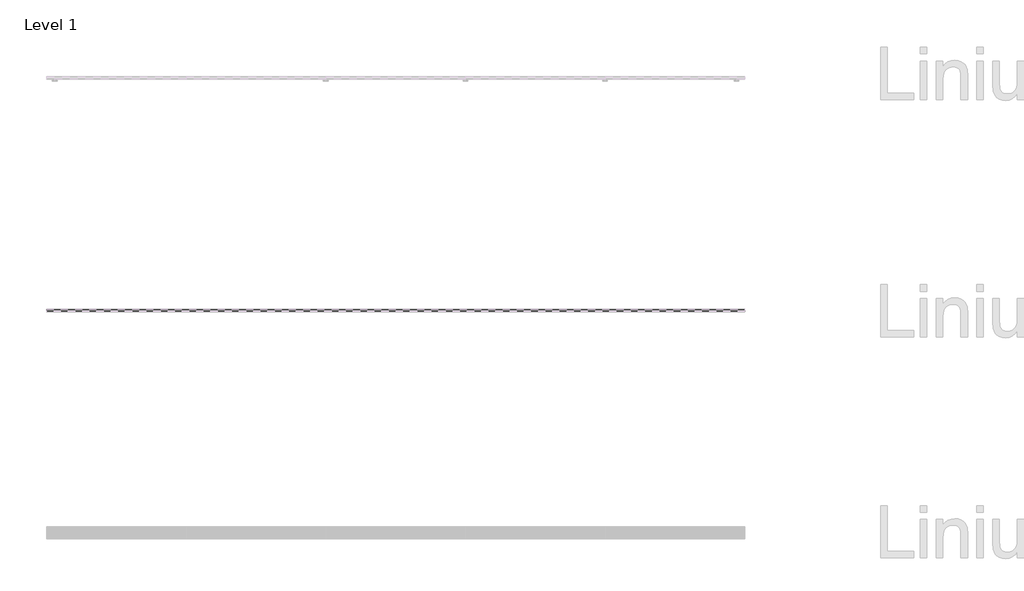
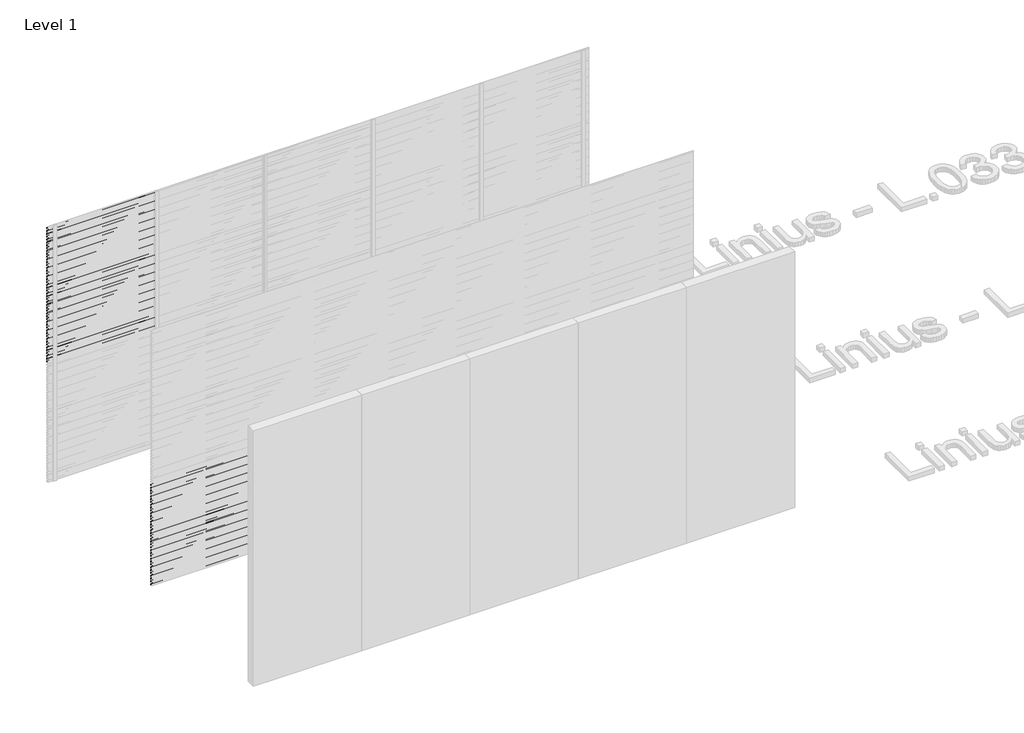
# One storey, part 54 of 507: 84 proxies.
"""IFC4 building model written with IfcOpenShell, lengths in millimetres."""

from ifc_helpers import new_model, si_unit, frame, origin, place, context, project, spatial, polyline, outline, extrude, element, save

model = new_model("IFC4")

# Units and contexts
model_context = context("Model", 3, world=origin())
ifc_project = project(units=[si_unit("LENGTHUNIT", "METRE", prefix="MILLI")], contexts=[model_context])

# Site, building, storey
site = spatial("IfcSite", under=ifc_project)
building = spatial("IfcBuilding", under=site)
storey = spatial("IfcBuildingStorey", under=building, Name="Level 1", Elevation=0.0)

# Proxies
placement = place(None, origin())
element("IfcBuildingElementProxy", 1, Name="Wall Sweeps", at=placement, inside=storey, context=model_context, shape_type="SweptSolid", body=[
    extrude(outline(polyline([(44003.4540136, 2973.0), (44003.4540136, 2959.5), (44002.2040136, 2960.2216933), (44002.2040136, 2972.2782281), (43983.0540136, 2983.3345698), (43983.0540136, 2997.0), (43984.3040136, 2997.0), (43984.3040136, 2984.0562577), (44003.4540136, 2973.0)])), frame((44966.6208097, 0.0, 0.0), z_axis=(1.0, 0.0, 0.0), x_axis=(0.0, 1.0, 0.0)), (0.0, 0.0, 1.0), 1200.0000002),
])
element("IfcBuildingElementProxy", 2, Name="Wall Sweeps", at=placement, inside=storey, context=model_context, shape_type="SweptSolid", body=[
    extrude(outline(polyline([(44003.4540136, 2939.7), (44003.4540136, 2926.2), (44002.2040136, 2926.9216933), (44002.2040136, 2938.9782281), (43983.0540136, 2950.0345698), (43983.0540136, 2963.7), (43984.3040136, 2963.7), (43984.3040136, 2950.7562577), (44003.4540136, 2939.7)])), frame((44966.6208097, 0.0, 0.0), z_axis=(1.0, 0.0, 0.0), x_axis=(0.0, 1.0, 0.0)), (0.0, 0.0, 1.0), 1200.0000002),
])
element("IfcBuildingElementProxy", 3, Name="Wall Sweeps", at=placement, inside=storey, context=model_context, shape_type="SweptSolid", body=[
    extrude(outline(polyline([(44003.4540136, 2906.4), (44003.4540136, 2892.9), (44002.2040136, 2893.6216933), (44002.2040136, 2905.6782281), (43983.0540136, 2916.7345698), (43983.0540136, 2930.4), (43984.3040136, 2930.4), (43984.3040136, 2917.4562577), (44003.4540136, 2906.4)])), frame((44966.6208097, 0.0, 0.0), z_axis=(1.0, 0.0, 0.0), x_axis=(0.0, 1.0, 0.0)), (0.0, 0.0, 1.0), 1200.0000002),
])
element("IfcBuildingElementProxy", 4, Name="Wall Sweeps", at=placement, inside=storey, context=model_context, shape_type="SweptSolid", body=[
    extrude(outline(polyline([(44003.4540136, 2873.1), (44003.4540136, 2859.6), (44002.2040136, 2860.3216933), (44002.2040136, 2872.3782281), (43983.0540136, 2883.4345698), (43983.0540136, 2897.1), (43984.3040136, 2897.1), (43984.3040136, 2884.1562577), (44003.4540136, 2873.1)])), frame((44966.6208097, 0.0, 0.0), z_axis=(1.0, 0.0, 0.0), x_axis=(0.0, 1.0, 0.0)), (0.0, 0.0, 1.0), 1200.0000002),
])
element("IfcBuildingElementProxy", 5, Name="Wall Sweeps", at=placement, inside=storey, context=model_context, shape_type="SweptSolid", body=[
    extrude(outline(polyline([(44003.4540136, 2839.8), (44003.4540136, 2826.3), (44002.2040136, 2827.0216933), (44002.2040136, 2839.0782281), (43983.0540136, 2850.1345698), (43983.0540136, 2863.8), (43984.3040136, 2863.8), (43984.3040136, 2850.8562577), (44003.4540136, 2839.8)])), frame((44966.6208097, 0.0, 0.0), z_axis=(1.0, 0.0, 0.0), x_axis=(0.0, 1.0, 0.0)), (0.0, 0.0, 1.0), 1200.0000002),
])
element("IfcBuildingElementProxy", 6, Name="Wall Sweeps", at=placement, inside=storey, context=model_context, shape_type="SweptSolid", body=[
    extrude(outline(polyline([(44003.4540136, 2806.5), (44003.4540136, 2793.0), (44002.2040136, 2793.7216933), (44002.2040136, 2805.7782281), (43983.0540136, 2816.8345698), (43983.0540136, 2830.5), (43984.3040136, 2830.5), (43984.3040136, 2817.5562577), (44003.4540136, 2806.5)])), frame((44966.6208097, 0.0, 0.0), z_axis=(1.0, 0.0, 0.0), x_axis=(0.0, 1.0, 0.0)), (0.0, 0.0, 1.0), 1200.0000002),
])
element("IfcBuildingElementProxy", 7, Name="Wall Sweeps", at=placement, inside=storey, context=model_context, shape_type="SweptSolid", body=[
    extrude(outline(polyline([(44003.4540136, 2773.2), (44003.4540136, 2759.7), (44002.2040136, 2760.4216933), (44002.2040136, 2772.4782281), (43983.0540136, 2783.5345698), (43983.0540136, 2797.2), (43984.3040136, 2797.2), (43984.3040136, 2784.2562577), (44003.4540136, 2773.2)])), frame((44966.6208097, 0.0, 0.0), z_axis=(1.0, 0.0, 0.0), x_axis=(0.0, 1.0, 0.0)), (0.0, 0.0, 1.0), 1200.0000002),
])
element("IfcBuildingElementProxy", 8, Name="Wall Sweeps", at=placement, inside=storey, context=model_context, shape_type="SweptSolid", body=[
    extrude(outline(polyline([(44003.4540136, 2739.9), (44003.4540136, 2726.4), (44002.2040136, 2727.1216933), (44002.2040136, 2739.1782281), (43983.0540136, 2750.2345698), (43983.0540136, 2763.9), (43984.3040136, 2763.9), (43984.3040136, 2750.9562577), (44003.4540136, 2739.9)])), frame((44966.6208097, 0.0, 0.0), z_axis=(1.0, 0.0, 0.0), x_axis=(0.0, 1.0, 0.0)), (0.0, 0.0, 1.0), 1200.0000002),
])
element("IfcBuildingElementProxy", 9, Name="Wall Sweeps", at=placement, inside=storey, context=model_context, shape_type="SweptSolid", body=[
    extrude(outline(polyline([(44003.4540136, 2706.6), (44003.4540136, 2693.1), (44002.2040136, 2693.8216933), (44002.2040136, 2705.8782281), (43983.0540136, 2716.9345698), (43983.0540136, 2730.6), (43984.3040136, 2730.6), (43984.3040136, 2717.6562577), (44003.4540136, 2706.6)])), frame((44966.6208097, 0.0, 0.0), z_axis=(1.0, 0.0, 0.0), x_axis=(0.0, 1.0, 0.0)), (0.0, 0.0, 1.0), 1200.0000002),
])
element("IfcBuildingElementProxy", 10, Name="Wall Sweeps", at=placement, inside=storey, context=model_context, shape_type="SweptSolid", body=[
    extrude(outline(polyline([(44003.4540136, 2673.3), (44003.4540136, 2659.8), (44002.2040136, 2660.5216933), (44002.2040136, 2672.5782281), (43983.0540136, 2683.6345698), (43983.0540136, 2697.3), (43984.3040136, 2697.3), (43984.3040136, 2684.3562577), (44003.4540136, 2673.3)])), frame((44966.6208097, 0.0, 0.0), z_axis=(1.0, 0.0, 0.0), x_axis=(0.0, 1.0, 0.0)), (0.0, 0.0, 1.0), 1200.0000002),
])
element("IfcBuildingElementProxy", 11, Name="Wall Sweeps", at=placement, inside=storey, context=model_context, shape_type="SweptSolid", body=[
    extrude(outline(polyline([(44003.4540136, 2640.0), (44003.4540136, 2626.5), (44002.2040136, 2627.2216933), (44002.2040136, 2639.2782281), (43983.0540136, 2650.3345698), (43983.0540136, 2664.0), (43984.3040136, 2664.0), (43984.3040136, 2651.0562577), (44003.4540136, 2640.0)])), frame((44966.6208097, 0.0, 0.0), z_axis=(1.0, 0.0, 0.0), x_axis=(0.0, 1.0, 0.0)), (0.0, 0.0, 1.0), 1200.0000002),
])
element("IfcBuildingElementProxy", 12, Name="Wall Sweeps", at=placement, inside=storey, context=model_context, shape_type="SweptSolid", body=[
    extrude(outline(polyline([(44003.4540136, 2606.7), (44003.4540136, 2593.2), (44002.2040136, 2593.9216933), (44002.2040136, 2605.9782281), (43983.0540136, 2617.0345698), (43983.0540136, 2630.7), (43984.3040136, 2630.7), (43984.3040136, 2617.7562577), (44003.4540136, 2606.7)])), frame((44966.6208097, 0.0, 0.0), z_axis=(1.0, 0.0, 0.0), x_axis=(0.0, 1.0, 0.0)), (0.0, 0.0, 1.0), 1200.0000002),
])
element("IfcBuildingElementProxy", 13, Name="Wall Sweeps", at=placement, inside=storey, context=model_context, shape_type="SweptSolid", body=[
    extrude(outline(polyline([(44003.4540136, 2573.4), (44003.4540136, 2559.9), (44002.2040136, 2560.6216933), (44002.2040136, 2572.6782281), (43983.0540136, 2583.7345698), (43983.0540136, 2597.4), (43984.3040136, 2597.4), (43984.3040136, 2584.4562577), (44003.4540136, 2573.4)])), frame((44966.6208097, 0.0, 0.0), z_axis=(1.0, 0.0, 0.0), x_axis=(0.0, 1.0, 0.0)), (0.0, 0.0, 1.0), 1200.0000002),
])
element("IfcBuildingElementProxy", 14, Name="Wall Sweeps", at=placement, inside=storey, context=model_context, shape_type="SweptSolid", body=[
    extrude(outline(polyline([(44003.4540136, 2540.1), (44003.4540136, 2526.6), (44002.2040136, 2527.3216933), (44002.2040136, 2539.3782281), (43983.0540136, 2550.4345698), (43983.0540136, 2564.1), (43984.3040136, 2564.1), (43984.3040136, 2551.1562577), (44003.4540136, 2540.1)])), frame((44966.6208097, 0.0, 0.0), z_axis=(1.0, 0.0, 0.0), x_axis=(0.0, 1.0, 0.0)), (0.0, 0.0, 1.0), 1200.0000002),
])
element("IfcBuildingElementProxy", 15, Name="Wall Sweeps", at=placement, inside=storey, context=model_context, shape_type="SweptSolid", body=[
    extrude(outline(polyline([(44003.4540136, 2506.8), (44003.4540136, 2493.3), (44002.2040136, 2494.0216933), (44002.2040136, 2506.0782281), (43983.0540136, 2517.1345698), (43983.0540136, 2530.8), (43984.3040136, 2530.8), (43984.3040136, 2517.8562577), (44003.4540136, 2506.8)])), frame((44966.6208097, 0.0, 0.0), z_axis=(1.0, 0.0, 0.0), x_axis=(0.0, 1.0, 0.0)), (0.0, 0.0, 1.0), 1200.0000002),
])
element("IfcBuildingElementProxy", 16, Name="Wall Sweeps", at=placement, inside=storey, context=model_context, shape_type="SweptSolid", body=[
    extrude(outline(polyline([(44003.4540136, 2473.5), (44003.4540136, 2460.0), (44002.2040136, 2460.7216933), (44002.2040136, 2472.7782281), (43983.0540136, 2483.8345698), (43983.0540136, 2497.5), (43984.3040136, 2497.5), (43984.3040136, 2484.5562577), (44003.4540136, 2473.5)])), frame((44966.6208097, 0.0, 0.0), z_axis=(1.0, 0.0, 0.0), x_axis=(0.0, 1.0, 0.0)), (0.0, 0.0, 1.0), 1200.0000002),
])
element("IfcBuildingElementProxy", 17, Name="Wall Sweeps", at=placement, inside=storey, context=model_context, shape_type="SweptSolid", body=[
    extrude(outline(polyline([(44003.4540136, 2440.2), (44003.4540136, 2426.7), (44002.2040136, 2427.4216933), (44002.2040136, 2439.4782281), (43983.0540136, 2450.5345698), (43983.0540136, 2464.2), (43984.3040136, 2464.2), (43984.3040136, 2451.2562577), (44003.4540136, 2440.2)])), frame((44966.6208097, 0.0, 0.0), z_axis=(1.0, 0.0, 0.0), x_axis=(0.0, 1.0, 0.0)), (0.0, 0.0, 1.0), 1200.0000002),
])
element("IfcBuildingElementProxy", 18, Name="Wall Sweeps", at=placement, inside=storey, context=model_context, shape_type="SweptSolid", body=[
    extrude(outline(polyline([(44003.4540136, 2406.9), (44003.4540136, 2393.4), (44002.2040136, 2394.1216933), (44002.2040136, 2406.1782281), (43983.0540136, 2417.2345698), (43983.0540136, 2430.9), (43984.3040136, 2430.9), (43984.3040136, 2417.9562577), (44003.4540136, 2406.9)])), frame((44966.6208097, 0.0, 0.0), z_axis=(1.0, 0.0, 0.0), x_axis=(0.0, 1.0, 0.0)), (0.0, 0.0, 1.0), 1200.0000002),
])
element("IfcBuildingElementProxy", 19, Name="Wall Sweeps", at=placement, inside=storey, context=model_context, shape_type="SweptSolid", body=[
    extrude(outline(polyline([(44003.4540136, 2373.6), (44003.4540136, 2360.1), (44002.2040136, 2360.8216933), (44002.2040136, 2372.8782281), (43983.0540136, 2383.9345698), (43983.0540136, 2397.6), (43984.3040136, 2397.6), (43984.3040136, 2384.6562577), (44003.4540136, 2373.6)])), frame((44966.6208097, 0.0, 0.0), z_axis=(1.0, 0.0, 0.0), x_axis=(0.0, 1.0, 0.0)), (0.0, 0.0, 1.0), 1200.0000002),
])
element("IfcBuildingElementProxy", 20, Name="Wall Sweeps", at=placement, inside=storey, context=model_context, shape_type="SweptSolid", body=[
    extrude(outline(polyline([(44003.4540136, 2340.3), (44003.4540136, 2326.8), (44002.2040136, 2327.5216933), (44002.2040136, 2339.5782281), (43983.0540136, 2350.6345698), (43983.0540136, 2364.3), (43984.3040136, 2364.3), (43984.3040136, 2351.3562577), (44003.4540136, 2340.3)])), frame((44966.6208097, 0.0, 0.0), z_axis=(1.0, 0.0, 0.0), x_axis=(0.0, 1.0, 0.0)), (0.0, 0.0, 1.0), 1200.0000002),
])
element("IfcBuildingElementProxy", 21, Name="Wall Sweeps", at=placement, inside=storey, context=model_context, shape_type="SweptSolid", body=[
    extrude(outline(polyline([(44003.4540136, 2307.0), (44003.4540136, 2293.5), (44002.2040136, 2294.2216933), (44002.2040136, 2306.2782281), (43983.0540136, 2317.3345698), (43983.0540136, 2331.0), (43984.3040136, 2331.0), (43984.3040136, 2318.0562577), (44003.4540136, 2307.0)])), frame((44966.6208097, 0.0, 0.0), z_axis=(1.0, 0.0, 0.0), x_axis=(0.0, 1.0, 0.0)), (0.0, 0.0, 1.0), 1200.0000002),
])
element("IfcBuildingElementProxy", 22, Name="Wall Sweeps", at=placement, inside=storey, context=model_context, shape_type="SweptSolid", body=[
    extrude(outline(polyline([(44003.4540136, 2273.7), (44003.4540136, 2260.2), (44002.2040136, 2260.9216933), (44002.2040136, 2272.9782281), (43983.0540136, 2284.0345698), (43983.0540136, 2297.7), (43984.3040136, 2297.7), (43984.3040136, 2284.7562577), (44003.4540136, 2273.7)])), frame((44966.6208097, 0.0, 0.0), z_axis=(1.0, 0.0, 0.0), x_axis=(0.0, 1.0, 0.0)), (0.0, 0.0, 1.0), 1200.0000002),
])
element("IfcBuildingElementProxy", 23, Name="Wall Sweeps", at=placement, inside=storey, context=model_context, shape_type="SweptSolid", body=[
    extrude(outline(polyline([(44003.4540136, 2240.4), (44003.4540136, 2226.9), (44002.2040136, 2227.6216933), (44002.2040136, 2239.6782281), (43983.0540136, 2250.7345698), (43983.0540136, 2264.4), (43984.3040136, 2264.4), (43984.3040136, 2251.4562577), (44003.4540136, 2240.4)])), frame((44966.6208097, 0.0, 0.0), z_axis=(1.0, 0.0, 0.0), x_axis=(0.0, 1.0, 0.0)), (0.0, 0.0, 1.0), 1200.0000002),
])
element("IfcBuildingElementProxy", 24, Name="Wall Sweeps", at=placement, inside=storey, context=model_context, shape_type="SweptSolid", body=[
    extrude(outline(polyline([(44003.4540136, 2207.1), (44003.4540136, 2193.6), (44002.2040136, 2194.3216933), (44002.2040136, 2206.3782281), (43983.0540136, 2217.4345698), (43983.0540136, 2231.1), (43984.3040136, 2231.1), (43984.3040136, 2218.1562577), (44003.4540136, 2207.1)])), frame((44966.6208097, 0.0, 0.0), z_axis=(1.0, 0.0, 0.0), x_axis=(0.0, 1.0, 0.0)), (0.0, 0.0, 1.0), 1200.0000002),
])
element("IfcBuildingElementProxy", 25, Name="Wall Sweeps", at=placement, inside=storey, context=model_context, shape_type="SweptSolid", body=[
    extrude(outline(polyline([(44003.4540136, 2173.8), (44003.4540136, 2160.3), (44002.2040136, 2161.0216933), (44002.2040136, 2173.0782281), (43983.0540136, 2184.1345698), (43983.0540136, 2197.8), (43984.3040136, 2197.8), (43984.3040136, 2184.8562577), (44003.4540136, 2173.8)])), frame((44966.6208097, 0.0, 0.0), z_axis=(1.0, 0.0, 0.0), x_axis=(0.0, 1.0, 0.0)), (0.0, 0.0, 1.0), 1200.0000002),
])
element("IfcBuildingElementProxy", 26, Name="Wall Sweeps", at=placement, inside=storey, context=model_context, shape_type="SweptSolid", body=[
    extrude(outline(polyline([(44003.4540136, 2140.5), (44003.4540136, 2127.0), (44002.2040136, 2127.7216933), (44002.2040136, 2139.7782281), (43983.0540136, 2150.8345698), (43983.0540136, 2164.5), (43984.3040136, 2164.5), (43984.3040136, 2151.5562577), (44003.4540136, 2140.5)])), frame((44966.6208097, 0.0, 0.0), z_axis=(1.0, 0.0, 0.0), x_axis=(0.0, 1.0, 0.0)), (0.0, 0.0, 1.0), 1200.0000002),
])
element("IfcBuildingElementProxy", 27, Name="Wall Sweeps", at=placement, inside=storey, context=model_context, shape_type="SweptSolid", body=[
    extrude(outline(polyline([(44003.4540136, 2107.2), (44003.4540136, 2093.7), (44002.2040136, 2094.4216933), (44002.2040136, 2106.4782281), (43983.0540136, 2117.5345698), (43983.0540136, 2131.2), (43984.3040136, 2131.2), (43984.3040136, 2118.2562577), (44003.4540136, 2107.2)])), frame((44966.6208097, 0.0, 0.0), z_axis=(1.0, 0.0, 0.0), x_axis=(0.0, 1.0, 0.0)), (0.0, 0.0, 1.0), 1200.0000002),
])
element("IfcBuildingElementProxy", 28, Name="Wall Sweeps", at=placement, inside=storey, context=model_context, shape_type="SweptSolid", body=[
    extrude(outline(polyline([(44003.4540136, 2073.9), (44003.4540136, 2060.4), (44002.2040136, 2061.1216933), (44002.2040136, 2073.1782281), (43983.0540136, 2084.2345698), (43983.0540136, 2097.9), (43984.3040136, 2097.9), (43984.3040136, 2084.9562577), (44003.4540136, 2073.9)])), frame((44966.6208097, 0.0, 0.0), z_axis=(1.0, 0.0, 0.0), x_axis=(0.0, 1.0, 0.0)), (0.0, 0.0, 1.0), 1200.0000002),
])
element("IfcBuildingElementProxy", 29, Name="Wall Sweeps", at=placement, inside=storey, context=model_context, shape_type="SweptSolid", body=[
    extrude(outline(polyline([(44003.4540136, 2040.6), (44003.4540136, 2027.1), (44002.2040136, 2027.8216933), (44002.2040136, 2039.8782281), (43983.0540136, 2050.9345698), (43983.0540136, 2064.6), (43984.3040136, 2064.6), (43984.3040136, 2051.6562577), (44003.4540136, 2040.6)])), frame((44966.6208097, 0.0, 0.0), z_axis=(1.0, 0.0, 0.0), x_axis=(0.0, 1.0, 0.0)), (0.0, 0.0, 1.0), 1200.0000002),
])
element("IfcBuildingElementProxy", 30, Name="Wall Sweeps", at=placement, inside=storey, context=model_context, shape_type="SweptSolid", body=[
    extrude(outline(polyline([(44003.4540136, 2007.3), (44003.4540136, 1993.8), (44002.2040136, 1994.5216933), (44002.2040136, 2006.5782281), (43983.0540136, 2017.6345698), (43983.0540136, 2031.3), (43984.3040136, 2031.3), (43984.3040136, 2018.3562577), (44003.4540136, 2007.3)])), frame((44966.6208097, 0.0, 0.0), z_axis=(1.0, 0.0, 0.0), x_axis=(0.0, 1.0, 0.0)), (0.0, 0.0, 1.0), 1200.0000002),
])
element("IfcBuildingElementProxy", 31, Name="Wall Sweeps", at=placement, inside=storey, context=model_context, shape_type="SweptSolid", body=[
    extrude(outline(polyline([(44003.4540136, 1974.0), (44003.4540136, 1960.5), (44002.2040136, 1961.2216933), (44002.2040136, 1973.2782281), (43983.0540136, 1984.3345698), (43983.0540136, 1998.0), (43984.3040136, 1998.0), (43984.3040136, 1985.0562577), (44003.4540136, 1974.0)])), frame((44966.6208097, 0.0, 0.0), z_axis=(1.0, 0.0, 0.0), x_axis=(0.0, 1.0, 0.0)), (0.0, 0.0, 1.0), 1200.0000002),
])
element("IfcBuildingElementProxy", 32, Name="Wall Sweeps", at=placement, inside=storey, context=model_context, shape_type="SweptSolid", body=[
    extrude(outline(polyline([(44003.4540136, 1940.7), (44003.4540136, 1927.2), (44002.2040136, 1927.9216933), (44002.2040136, 1939.9782281), (43983.0540136, 1951.0345698), (43983.0540136, 1964.7), (43984.3040136, 1964.7), (43984.3040136, 1951.7562577), (44003.4540136, 1940.7)])), frame((44966.6208097, 0.0, 0.0), z_axis=(1.0, 0.0, 0.0), x_axis=(0.0, 1.0, 0.0)), (0.0, 0.0, 1.0), 1200.0000002),
])
element("IfcBuildingElementProxy", 33, Name="Wall Sweeps", at=placement, inside=storey, context=model_context, shape_type="SweptSolid", body=[
    extrude(outline(polyline([(44003.4540136, 1907.4), (44003.4540136, 1893.9), (44002.2040136, 1894.6216933), (44002.2040136, 1906.6782281), (43983.0540136, 1917.7345698), (43983.0540136, 1931.4), (43984.3040136, 1931.4), (43984.3040136, 1918.4562577), (44003.4540136, 1907.4)])), frame((44966.6208097, 0.0, 0.0), z_axis=(1.0, 0.0, 0.0), x_axis=(0.0, 1.0, 0.0)), (0.0, 0.0, 1.0), 1200.0000002),
])
element("IfcBuildingElementProxy", 34, Name="Wall Sweeps", at=placement, inside=storey, context=model_context, shape_type="SweptSolid", body=[
    extrude(outline(polyline([(44003.4540136, 1874.1), (44003.4540136, 1860.6), (44002.2040136, 1861.3216933), (44002.2040136, 1873.3782281), (43983.0540136, 1884.4345698), (43983.0540136, 1898.1), (43984.3040136, 1898.1), (43984.3040136, 1885.1562577), (44003.4540136, 1874.1)])), frame((44966.6208097, 0.0, 0.0), z_axis=(1.0, 0.0, 0.0), x_axis=(0.0, 1.0, 0.0)), (0.0, 0.0, 1.0), 1200.0000002),
])
element("IfcBuildingElementProxy", 35, Name="Wall Sweeps", at=placement, inside=storey, context=model_context, shape_type="SweptSolid", body=[
    extrude(outline(polyline([(44003.4540136, 1840.8), (44003.4540136, 1827.3), (44002.2040136, 1828.0216933), (44002.2040136, 1840.0782281), (43983.0540136, 1851.1345698), (43983.0540136, 1864.8), (43984.3040136, 1864.8), (43984.3040136, 1851.8562577), (44003.4540136, 1840.8)])), frame((44966.6208097, 0.0, 0.0), z_axis=(1.0, 0.0, 0.0), x_axis=(0.0, 1.0, 0.0)), (0.0, 0.0, 1.0), 1200.0000002),
])
element("IfcBuildingElementProxy", 36, Name="Wall Sweeps", at=placement, inside=storey, context=model_context, shape_type="SweptSolid", body=[
    extrude(outline(polyline([(44003.4540136, 1807.5), (44003.4540136, 1794.0), (44002.2040136, 1794.7216933), (44002.2040136, 1806.7782281), (43983.0540136, 1817.8345698), (43983.0540136, 1831.5), (43984.3040136, 1831.5), (43984.3040136, 1818.5562577), (44003.4540136, 1807.5)])), frame((44966.6208097, 0.0, 0.0), z_axis=(1.0, 0.0, 0.0), x_axis=(0.0, 1.0, 0.0)), (0.0, 0.0, 1.0), 1200.0000002),
])
element("IfcBuildingElementProxy", 37, Name="Wall Sweeps", at=placement, inside=storey, context=model_context, shape_type="SweptSolid", body=[
    extrude(outline(polyline([(44003.4540136, 1774.2), (44003.4540136, 1760.7), (44002.2040136, 1761.4216933), (44002.2040136, 1773.4782281), (43983.0540136, 1784.5345698), (43983.0540136, 1798.2), (43984.3040136, 1798.2), (43984.3040136, 1785.2562577), (44003.4540136, 1774.2)])), frame((44966.6208097, 0.0, 0.0), z_axis=(1.0, 0.0, 0.0), x_axis=(0.0, 1.0, 0.0)), (0.0, 0.0, 1.0), 1200.0000002),
])
element("IfcBuildingElementProxy", 38, Name="Wall Sweeps", at=placement, inside=storey, context=model_context, shape_type="SweptSolid", body=[
    extrude(outline(polyline([(44003.4540136, 1740.9), (44003.4540136, 1727.4), (44002.2040136, 1728.1216933), (44002.2040136, 1740.1782281), (43983.0540136, 1751.2345698), (43983.0540136, 1764.9), (43984.3040136, 1764.9), (43984.3040136, 1751.9562577), (44003.4540136, 1740.9)])), frame((44966.6208097, 0.0, 0.0), z_axis=(1.0, 0.0, 0.0), x_axis=(0.0, 1.0, 0.0)), (0.0, 0.0, 1.0), 1200.0000002),
])
element("IfcBuildingElementProxy", 39, Name="Wall Sweeps", at=placement, inside=storey, context=model_context, shape_type="SweptSolid", body=[
    extrude(outline(polyline([(44003.4540136, 1707.6), (44003.4540136, 1694.1), (44002.2040136, 1694.8216933), (44002.2040136, 1706.8782281), (43983.0540136, 1717.9345698), (43983.0540136, 1731.6), (43984.3040136, 1731.6), (43984.3040136, 1718.6562577), (44003.4540136, 1707.6)])), frame((44966.6208097, 0.0, 0.0), z_axis=(1.0, 0.0, 0.0), x_axis=(0.0, 1.0, 0.0)), (0.0, 0.0, 1.0), 1200.0000002),
])
element("IfcBuildingElementProxy", 40, Name="Wall Sweeps", at=placement, inside=storey, context=model_context, shape_type="SweptSolid", body=[
    extrude(outline(polyline([(44003.4540136, 1674.3), (44003.4540136, 1660.8), (44002.2040136, 1661.5216933), (44002.2040136, 1673.5782281), (43983.0540136, 1684.6345698), (43983.0540136, 1698.3), (43984.3040136, 1698.3), (43984.3040136, 1685.3562577), (44003.4540136, 1674.3)])), frame((44966.6208097, 0.0, 0.0), z_axis=(1.0, 0.0, 0.0), x_axis=(0.0, 1.0, 0.0)), (0.0, 0.0, 1.0), 1200.0000002),
])
element("IfcBuildingElementProxy", 41, Name="Wall Sweeps", at=placement, inside=storey, context=model_context, shape_type="SweptSolid", body=[
    extrude(outline(polyline([(44003.4540136, 1641.0), (44003.4540136, 1627.5), (44002.2040136, 1628.2216933), (44002.2040136, 1640.2782281), (43983.0540136, 1651.3345698), (43983.0540136, 1665.0), (43984.3040136, 1665.0), (43984.3040136, 1652.0562577), (44003.4540136, 1641.0)])), frame((44966.6208097, 0.0, 0.0), z_axis=(1.0, 0.0, 0.0), x_axis=(0.0, 1.0, 0.0)), (0.0, 0.0, 1.0), 1200.0000002),
])
element("IfcBuildingElementProxy", 42, Name="Wall Sweeps", at=placement, inside=storey, context=model_context, shape_type="SweptSolid", body=[
    extrude(outline(polyline([(44003.4540136, 1607.7), (44003.4540136, 1594.2), (44002.2040136, 1594.9216933), (44002.2040136, 1606.9782281), (43983.0540136, 1618.0345698), (43983.0540136, 1631.7), (43984.3040136, 1631.7), (43984.3040136, 1618.7562577), (44003.4540136, 1607.7)])), frame((44966.6208097, 0.0, 0.0), z_axis=(1.0, 0.0, 0.0), x_axis=(0.0, 1.0, 0.0)), (0.0, 0.0, 1.0), 1200.0000002),
])
element("IfcBuildingElementProxy", 43, Name="Wall Sweeps", at=placement, inside=storey, context=model_context, shape_type="SweptSolid", body=[
    extrude(outline(polyline([(44003.4540136, 1574.4), (44003.4540136, 1560.9), (44002.2040136, 1561.6216933), (44002.2040136, 1573.6782281), (43983.0540136, 1584.7345698), (43983.0540136, 1598.4), (43984.3040136, 1598.4), (43984.3040136, 1585.4562577), (44003.4540136, 1574.4)])), frame((44966.6208097, 0.0, 0.0), z_axis=(1.0, 0.0, 0.0), x_axis=(0.0, 1.0, 0.0)), (0.0, 0.0, 1.0), 1200.0000002),
])
element("IfcBuildingElementProxy", 44, Name="Wall Sweeps", at=placement, inside=storey, context=model_context, shape_type="SweptSolid", body=[
    extrude(outline(polyline([(44003.4540136, 1541.1), (44003.4540136, 1527.6), (44002.2040136, 1528.3216933), (44002.2040136, 1540.3782281), (43983.0540136, 1551.4345698), (43983.0540136, 1565.1), (43984.3040136, 1565.1), (43984.3040136, 1552.1562577), (44003.4540136, 1541.1)])), frame((44966.6208097, 0.0, 0.0), z_axis=(1.0, 0.0, 0.0), x_axis=(0.0, 1.0, 0.0)), (0.0, 0.0, 1.0), 1200.0000002),
])
element("IfcBuildingElementProxy", 45, Name="Wall Sweeps", at=placement, inside=storey, context=model_context, shape_type="SweptSolid", body=[
    extrude(outline(polyline([(44003.4540136, 1507.8), (44003.4540136, 1494.3), (44002.2040136, 1495.0216933), (44002.2040136, 1507.0782281), (43983.0540136, 1518.1345698), (43983.0540136, 1531.8), (43984.3040136, 1531.8), (43984.3040136, 1518.8562577), (44003.4540136, 1507.8)])), frame((44966.6208097, 0.0, 0.0), z_axis=(1.0, 0.0, 0.0), x_axis=(0.0, 1.0, 0.0)), (0.0, 0.0, 1.0), 1200.0000002),
])
element("IfcBuildingElementProxy", 46, Name="Wall Sweeps", at=placement, inside=storey, context=model_context, shape_type="SweptSolid", body=[
    extrude(outline(polyline([(44003.4540136, 1474.5), (44003.4540136, 1461.0), (44002.2040136, 1461.7216933), (44002.2040136, 1473.7782281), (43983.0540136, 1484.8345698), (43983.0540136, 1498.5), (43984.3040136, 1498.5), (43984.3040136, 1485.5562577), (44003.4540136, 1474.5)])), frame((44966.6208097, 0.0, 0.0), z_axis=(1.0, 0.0, 0.0), x_axis=(0.0, 1.0, 0.0)), (0.0, 0.0, 1.0), 1200.0000002),
])
element("IfcBuildingElementProxy", 47, Name="Wall Sweeps", at=placement, inside=storey, context=model_context, shape_type="SweptSolid", body=[
    extrude(outline(polyline([(44003.4540136, 1441.2), (44003.4540136, 1427.7), (44002.2040136, 1428.4216933), (44002.2040136, 1440.4782281), (43983.0540136, 1451.5345698), (43983.0540136, 1465.2), (43984.3040136, 1465.2), (43984.3040136, 1452.2562577), (44003.4540136, 1441.2)])), frame((44966.6208097, 0.0, 0.0), z_axis=(1.0, 0.0, 0.0), x_axis=(0.0, 1.0, 0.0)), (0.0, 0.0, 1.0), 1200.0000002),
])
element("IfcBuildingElementProxy", 48, Name="Wall Sweeps", at=placement, inside=storey, context=model_context, shape_type="SweptSolid", body=[
    extrude(outline(polyline([(44003.4540136, 1407.9), (44003.4540136, 1394.4), (44002.2040136, 1395.1216933), (44002.2040136, 1407.1782281), (43983.0540136, 1418.2345698), (43983.0540136, 1431.9), (43984.3040136, 1431.9), (43984.3040136, 1418.9562577), (44003.4540136, 1407.9)])), frame((44966.6208097, 0.0, 0.0), z_axis=(1.0, 0.0, 0.0), x_axis=(0.0, 1.0, 0.0)), (0.0, 0.0, 1.0), 1200.0000002),
])
element("IfcBuildingElementProxy", 49, Name="Wall Sweeps", at=placement, inside=storey, context=model_context, shape_type="SweptSolid", body=[
    extrude(outline(polyline([(42003.4540136, 1174.8), (42003.4540136, 1161.3), (42002.2040136, 1162.0216933), (42002.2040136, 1174.0782281), (41983.0540136, 1185.1345698), (41983.0540136, 1198.8), (41984.3040136, 1198.8), (41984.3040136, 1185.8562577), (42003.4540136, 1174.8)])), frame((44966.6208097, 0.0, 0.0), z_axis=(1.0, 0.0, 0.0), x_axis=(0.0, 1.0, 0.0)), (0.0, 0.0, 1.0), 6000.0),
])
element("IfcBuildingElementProxy", 50, Name="Wall Sweeps", at=placement, inside=storey, context=model_context, shape_type="SweptSolid", body=[
    extrude(outline(polyline([(42003.4540136, 1141.5), (42003.4540136, 1128.0), (42002.2040136, 1128.7216933), (42002.2040136, 1140.7782281), (41983.0540136, 1151.8345698), (41983.0540136, 1165.5), (41984.3040136, 1165.5), (41984.3040136, 1152.5562577), (42003.4540136, 1141.5)])), frame((44966.6208097, 0.0, 0.0), z_axis=(1.0, 0.0, 0.0), x_axis=(0.0, 1.0, 0.0)), (0.0, 0.0, 1.0), 6000.0),
])
element("IfcBuildingElementProxy", 51, Name="Wall Sweeps", at=placement, inside=storey, context=model_context, shape_type="SweptSolid", body=[
    extrude(outline(polyline([(42003.4540136, 1108.2), (42003.4540136, 1094.7), (42002.2040136, 1095.4216933), (42002.2040136, 1107.4782281), (41983.0540136, 1118.5345698), (41983.0540136, 1132.2), (41984.3040136, 1132.2), (41984.3040136, 1119.2562577), (42003.4540136, 1108.2)])), frame((44966.6208097, 0.0, 0.0), z_axis=(1.0, 0.0, 0.0), x_axis=(0.0, 1.0, 0.0)), (0.0, 0.0, 1.0), 6000.0),
])
element("IfcBuildingElementProxy", 52, Name="Wall Sweeps", at=placement, inside=storey, context=model_context, shape_type="SweptSolid", body=[
    extrude(outline(polyline([(42003.4540136, 1074.9), (42003.4540136, 1061.4), (42002.2040136, 1062.1216933), (42002.2040136, 1074.1782281), (41983.0540136, 1085.2345698), (41983.0540136, 1098.9), (41984.3040136, 1098.9), (41984.3040136, 1085.9562577), (42003.4540136, 1074.9)])), frame((44966.6208097, 0.0, 0.0), z_axis=(1.0, 0.0, 0.0), x_axis=(0.0, 1.0, 0.0)), (0.0, 0.0, 1.0), 6000.0),
])
element("IfcBuildingElementProxy", 53, Name="Wall Sweeps", at=placement, inside=storey, context=model_context, shape_type="SweptSolid", body=[
    extrude(outline(polyline([(42003.4540136, 1041.6), (42003.4540136, 1028.1), (42002.2040136, 1028.8216933), (42002.2040136, 1040.8782281), (41983.0540136, 1051.9345698), (41983.0540136, 1065.6), (41984.3040136, 1065.6), (41984.3040136, 1052.6562577), (42003.4540136, 1041.6)])), frame((44966.6208097, 0.0, 0.0), z_axis=(1.0, 0.0, 0.0), x_axis=(0.0, 1.0, 0.0)), (0.0, 0.0, 1.0), 6000.0),
])
element("IfcBuildingElementProxy", 54, Name="Wall Sweeps", at=placement, inside=storey, context=model_context, shape_type="SweptSolid", body=[
    extrude(outline(polyline([(42003.4540136, 1008.3), (42003.4540136, 994.8), (42002.2040136, 995.5216933), (42002.2040136, 1007.5782281), (41983.0540136, 1018.6345698), (41983.0540136, 1032.3), (41984.3040136, 1032.3), (41984.3040136, 1019.3562577), (42003.4540136, 1008.3)])), frame((44966.6208097, 0.0, 0.0), z_axis=(1.0, 0.0, 0.0), x_axis=(0.0, 1.0, 0.0)), (0.0, 0.0, 1.0), 6000.0),
])
element("IfcBuildingElementProxy", 55, Name="Wall Sweeps", at=placement, inside=storey, context=model_context, shape_type="SweptSolid", body=[
    extrude(outline(polyline([(42003.4540136, 975.0), (42003.4540136, 961.5), (42002.2040136, 962.2216933), (42002.2040136, 974.2782281), (41983.0540136, 985.3345698), (41983.0540136, 999.0), (41984.3040136, 999.0), (41984.3040136, 986.0562577), (42003.4540136, 975.0)])), frame((44966.6208097, 0.0, 0.0), z_axis=(1.0, 0.0, 0.0), x_axis=(0.0, 1.0, 0.0)), (0.0, 0.0, 1.0), 6000.0),
])
element("IfcBuildingElementProxy", 56, Name="Wall Sweeps", at=placement, inside=storey, context=model_context, shape_type="SweptSolid", body=[
    extrude(outline(polyline([(42003.4540136, 941.7), (42003.4540136, 928.2), (42002.2040136, 928.9216933), (42002.2040136, 940.9782281), (41983.0540136, 952.0345698), (41983.0540136, 965.7), (41984.3040136, 965.7), (41984.3040136, 952.7562577), (42003.4540136, 941.7)])), frame((44966.6208097, 0.0, 0.0), z_axis=(1.0, 0.0, 0.0), x_axis=(0.0, 1.0, 0.0)), (0.0, 0.0, 1.0), 6000.0),
])
element("IfcBuildingElementProxy", 57, Name="Wall Sweeps", at=placement, inside=storey, context=model_context, shape_type="SweptSolid", body=[
    extrude(outline(polyline([(42003.4540136, 908.4), (42003.4540136, 894.9), (42002.2040136, 895.6216933), (42002.2040136, 907.6782281), (41983.0540136, 918.7345698), (41983.0540136, 932.4), (41984.3040136, 932.4), (41984.3040136, 919.4562577), (42003.4540136, 908.4)])), frame((44966.6208097, 0.0, 0.0), z_axis=(1.0, 0.0, 0.0), x_axis=(0.0, 1.0, 0.0)), (0.0, 0.0, 1.0), 6000.0),
])
element("IfcBuildingElementProxy", 58, Name="Wall Sweeps", at=placement, inside=storey, context=model_context, shape_type="SweptSolid", body=[
    extrude(outline(polyline([(42003.4540136, 875.1), (42003.4540136, 861.6), (42002.2040136, 862.3216933), (42002.2040136, 874.3782281), (41983.0540136, 885.4345698), (41983.0540136, 899.1), (41984.3040136, 899.1), (41984.3040136, 886.1562577), (42003.4540136, 875.1)])), frame((44966.6208097, 0.0, 0.0), z_axis=(1.0, 0.0, 0.0), x_axis=(0.0, 1.0, 0.0)), (0.0, 0.0, 1.0), 6000.0),
])
element("IfcBuildingElementProxy", 59, Name="Wall Sweeps", at=placement, inside=storey, context=model_context, shape_type="SweptSolid", body=[
    extrude(outline(polyline([(42003.4540136, 841.8), (42003.4540136, 828.3), (42002.2040136, 829.0216933), (42002.2040136, 841.0782281), (41983.0540136, 852.1345698), (41983.0540136, 865.8), (41984.3040136, 865.8), (41984.3040136, 852.8562577), (42003.4540136, 841.8)])), frame((44966.6208097, 0.0, 0.0), z_axis=(1.0, 0.0, 0.0), x_axis=(0.0, 1.0, 0.0)), (0.0, 0.0, 1.0), 6000.0),
])
element("IfcBuildingElementProxy", 60, Name="Wall Sweeps", at=placement, inside=storey, context=model_context, shape_type="SweptSolid", body=[
    extrude(outline(polyline([(42003.4540136, 808.5), (42003.4540136, 795.0), (42002.2040136, 795.7216933), (42002.2040136, 807.7782281), (41983.0540136, 818.8345698), (41983.0540136, 832.5), (41984.3040136, 832.5), (41984.3040136, 819.5562577), (42003.4540136, 808.5)])), frame((44966.6208097, 0.0, 0.0), z_axis=(1.0, 0.0, 0.0), x_axis=(0.0, 1.0, 0.0)), (0.0, 0.0, 1.0), 6000.0),
])
element("IfcBuildingElementProxy", 61, Name="Wall Sweeps", at=placement, inside=storey, context=model_context, shape_type="SweptSolid", body=[
    extrude(outline(polyline([(42003.4540136, 775.2), (42003.4540136, 761.7), (42002.2040136, 762.4216933), (42002.2040136, 774.4782281), (41983.0540136, 785.5345698), (41983.0540136, 799.2), (41984.3040136, 799.2), (41984.3040136, 786.2562577), (42003.4540136, 775.2)])), frame((44966.6208097, 0.0, 0.0), z_axis=(1.0, 0.0, 0.0), x_axis=(0.0, 1.0, 0.0)), (0.0, 0.0, 1.0), 6000.0),
])
element("IfcBuildingElementProxy", 62, Name="Wall Sweeps", at=placement, inside=storey, context=model_context, shape_type="SweptSolid", body=[
    extrude(outline(polyline([(42003.4540136, 741.9), (42003.4540136, 728.4), (42002.2040136, 729.1216933), (42002.2040136, 741.1782281), (41983.0540136, 752.2345698), (41983.0540136, 765.9), (41984.3040136, 765.9), (41984.3040136, 752.9562577), (42003.4540136, 741.9)])), frame((44966.6208097, 0.0, 0.0), z_axis=(1.0, 0.0, 0.0), x_axis=(0.0, 1.0, 0.0)), (0.0, 0.0, 1.0), 6000.0),
])
element("IfcBuildingElementProxy", 63, Name="Wall Sweeps", at=placement, inside=storey, context=model_context, shape_type="SweptSolid", body=[
    extrude(outline(polyline([(42003.4540136, 708.6), (42003.4540136, 695.1), (42002.2040136, 695.8216933), (42002.2040136, 707.8782281), (41983.0540136, 718.9345698), (41983.0540136, 732.6), (41984.3040136, 732.6), (41984.3040136, 719.6562577), (42003.4540136, 708.6)])), frame((44966.6208097, 0.0, 0.0), z_axis=(1.0, 0.0, 0.0), x_axis=(0.0, 1.0, 0.0)), (0.0, 0.0, 1.0), 6000.0),
])
element("IfcBuildingElementProxy", 64, Name="Wall Sweeps", at=placement, inside=storey, context=model_context, shape_type="SweptSolid", body=[
    extrude(outline(polyline([(42003.4540136, 675.3), (42003.4540136, 661.8), (42002.2040136, 662.5216933), (42002.2040136, 674.5782281), (41983.0540136, 685.6345698), (41983.0540136, 699.3), (41984.3040136, 699.3), (41984.3040136, 686.3562577), (42003.4540136, 675.3)])), frame((44966.6208097, 0.0, 0.0), z_axis=(1.0, 0.0, 0.0), x_axis=(0.0, 1.0, 0.0)), (0.0, 0.0, 1.0), 6000.0),
])
element("IfcBuildingElementProxy", 65, Name="Wall Sweeps", at=placement, inside=storey, context=model_context, shape_type="SweptSolid", body=[
    extrude(outline(polyline([(42003.4540136, 642.0), (42003.4540136, 628.5), (42002.2040136, 629.2216933), (42002.2040136, 641.2782281), (41983.0540136, 652.3345698), (41983.0540136, 666.0), (41984.3040136, 666.0), (41984.3040136, 653.0562577), (42003.4540136, 642.0)])), frame((44966.6208097, 0.0, 0.0), z_axis=(1.0, 0.0, 0.0), x_axis=(0.0, 1.0, 0.0)), (0.0, 0.0, 1.0), 6000.0),
])
element("IfcBuildingElementProxy", 66, Name="Wall Sweeps", at=placement, inside=storey, context=model_context, shape_type="SweptSolid", body=[
    extrude(outline(polyline([(42003.4540136, 608.7), (42003.4540136, 595.2), (42002.2040136, 595.9216933), (42002.2040136, 607.9782281), (41983.0540136, 619.0345698), (41983.0540136, 632.7), (41984.3040136, 632.7), (41984.3040136, 619.7562577), (42003.4540136, 608.7)])), frame((44966.6208097, 0.0, 0.0), z_axis=(1.0, 0.0, 0.0), x_axis=(0.0, 1.0, 0.0)), (0.0, 0.0, 1.0), 6000.0),
])
element("IfcBuildingElementProxy", 67, Name="Wall Sweeps", at=placement, inside=storey, context=model_context, shape_type="SweptSolid", body=[
    extrude(outline(polyline([(42003.4540136, 575.4), (42003.4540136, 561.9), (42002.2040136, 562.6216933), (42002.2040136, 574.6782281), (41983.0540136, 585.7345698), (41983.0540136, 599.4), (41984.3040136, 599.4), (41984.3040136, 586.4562577), (42003.4540136, 575.4)])), frame((44966.6208097, 0.0, 0.0), z_axis=(1.0, 0.0, 0.0), x_axis=(0.0, 1.0, 0.0)), (0.0, 0.0, 1.0), 6000.0),
])
element("IfcBuildingElementProxy", 68, Name="Wall Sweeps", at=placement, inside=storey, context=model_context, shape_type="SweptSolid", body=[
    extrude(outline(polyline([(42003.4540136, 542.1), (42003.4540136, 528.6), (42002.2040136, 529.3216933), (42002.2040136, 541.3782281), (41983.0540136, 552.4345698), (41983.0540136, 566.1), (41984.3040136, 566.1), (41984.3040136, 553.1562577), (42003.4540136, 542.1)])), frame((44966.6208097, 0.0, 0.0), z_axis=(1.0, 0.0, 0.0), x_axis=(0.0, 1.0, 0.0)), (0.0, 0.0, 1.0), 6000.0),
])
element("IfcBuildingElementProxy", 69, Name="Wall Sweeps", at=placement, inside=storey, context=model_context, shape_type="SweptSolid", body=[
    extrude(outline(polyline([(42003.4540136, 508.8), (42003.4540136, 495.3), (42002.2040136, 496.0216933), (42002.2040136, 508.0782281), (41983.0540136, 519.1345698), (41983.0540136, 532.8), (41984.3040136, 532.8), (41984.3040136, 519.8562577), (42003.4540136, 508.8)])), frame((44966.6208097, 0.0, 0.0), z_axis=(1.0, 0.0, 0.0), x_axis=(0.0, 1.0, 0.0)), (0.0, 0.0, 1.0), 6000.0),
])
element("IfcBuildingElementProxy", 70, Name="Wall Sweeps", at=placement, inside=storey, context=model_context, shape_type="SweptSolid", body=[
    extrude(outline(polyline([(42003.4540136, 475.5), (42003.4540136, 462.0), (42002.2040136, 462.7216933), (42002.2040136, 474.7782281), (41983.0540136, 485.8345698), (41983.0540136, 499.5), (41984.3040136, 499.5), (41984.3040136, 486.5562577), (42003.4540136, 475.5)])), frame((44966.6208097, 0.0, 0.0), z_axis=(1.0, 0.0, 0.0), x_axis=(0.0, 1.0, 0.0)), (0.0, 0.0, 1.0), 6000.0),
])
element("IfcBuildingElementProxy", 71, Name="Wall Sweeps", at=placement, inside=storey, context=model_context, shape_type="SweptSolid", body=[
    extrude(outline(polyline([(42003.4540136, 442.2), (42003.4540136, 428.7), (42002.2040136, 429.4216933), (42002.2040136, 441.4782281), (41983.0540136, 452.5345698), (41983.0540136, 466.2), (41984.3040136, 466.2), (41984.3040136, 453.2562577), (42003.4540136, 442.2)])), frame((44966.6208097, 0.0, 0.0), z_axis=(1.0, 0.0, 0.0), x_axis=(0.0, 1.0, 0.0)), (0.0, 0.0, 1.0), 6000.0),
])
element("IfcBuildingElementProxy", 72, Name="Wall Sweeps", at=placement, inside=storey, context=model_context, shape_type="SweptSolid", body=[
    extrude(outline(polyline([(42003.4540136, 408.9), (42003.4540136, 395.4), (42002.2040136, 396.1216933), (42002.2040136, 408.1782281), (41983.0540136, 419.2345698), (41983.0540136, 432.9), (41984.3040136, 432.9), (41984.3040136, 419.9562577), (42003.4540136, 408.9)])), frame((44966.6208097, 0.0, 0.0), z_axis=(1.0, 0.0, 0.0), x_axis=(0.0, 1.0, 0.0)), (0.0, 0.0, 1.0), 6000.0),
])
element("IfcBuildingElementProxy", 73, Name="Wall Sweeps", at=placement, inside=storey, context=model_context, shape_type="SweptSolid", body=[
    extrude(outline(polyline([(42003.4540136, 375.6), (42003.4540136, 362.1), (42002.2040136, 362.8216933), (42002.2040136, 374.8782281), (41983.0540136, 385.9345698), (41983.0540136, 399.6), (41984.3040136, 399.6), (41984.3040136, 386.6562577), (42003.4540136, 375.6)])), frame((44966.6208097, 0.0, 0.0), z_axis=(1.0, 0.0, 0.0), x_axis=(0.0, 1.0, 0.0)), (0.0, 0.0, 1.0), 6000.0),
])
element("IfcBuildingElementProxy", 74, Name="Wall Sweeps", at=placement, inside=storey, context=model_context, shape_type="SweptSolid", body=[
    extrude(outline(polyline([(42003.4540136, 342.3), (42003.4540136, 328.8), (42002.2040136, 329.5216933), (42002.2040136, 341.5782281), (41983.0540136, 352.6345698), (41983.0540136, 366.3), (41984.3040136, 366.3), (41984.3040136, 353.3562577), (42003.4540136, 342.3)])), frame((44966.6208097, 0.0, 0.0), z_axis=(1.0, 0.0, 0.0), x_axis=(0.0, 1.0, 0.0)), (0.0, 0.0, 1.0), 6000.0),
])
element("IfcBuildingElementProxy", 75, Name="Wall Sweeps", at=placement, inside=storey, context=model_context, shape_type="SweptSolid", body=[
    extrude(outline(polyline([(42003.4540136, 309.0), (42003.4540136, 295.5), (42002.2040136, 296.2216933), (42002.2040136, 308.2782281), (41983.0540136, 319.3345698), (41983.0540136, 333.0), (41984.3040136, 333.0), (41984.3040136, 320.0562577), (42003.4540136, 309.0)])), frame((44966.6208097, 0.0, 0.0), z_axis=(1.0, 0.0, 0.0), x_axis=(0.0, 1.0, 0.0)), (0.0, 0.0, 1.0), 6000.0),
])
element("IfcBuildingElementProxy", 76, Name="Wall Sweeps", at=placement, inside=storey, context=model_context, shape_type="SweptSolid", body=[
    extrude(outline(polyline([(42003.4540136, 275.7), (42003.4540136, 262.2), (42002.2040136, 262.9216933), (42002.2040136, 274.9782281), (41983.0540136, 286.0345698), (41983.0540136, 299.7), (41984.3040136, 299.7), (41984.3040136, 286.7562577), (42003.4540136, 275.7)])), frame((44966.6208097, 0.0, 0.0), z_axis=(1.0, 0.0, 0.0), x_axis=(0.0, 1.0, 0.0)), (0.0, 0.0, 1.0), 6000.0),
])
element("IfcBuildingElementProxy", 77, Name="Wall Sweeps", at=placement, inside=storey, context=model_context, shape_type="SweptSolid", body=[
    extrude(outline(polyline([(42003.4540136, 242.4), (42003.4540136, 228.9), (42002.2040136, 229.6216933), (42002.2040136, 241.6782281), (41983.0540136, 252.7345698), (41983.0540136, 266.4), (41984.3040136, 266.4), (41984.3040136, 253.4562577), (42003.4540136, 242.4)])), frame((44966.6208097, 0.0, 0.0), z_axis=(1.0, 0.0, 0.0), x_axis=(0.0, 1.0, 0.0)), (0.0, 0.0, 1.0), 6000.0),
])
element("IfcBuildingElementProxy", 78, Name="Wall Sweeps", at=placement, inside=storey, context=model_context, shape_type="SweptSolid", body=[
    extrude(outline(polyline([(42003.4540136, 209.1), (42003.4540136, 195.6), (42002.2040136, 196.3216933), (42002.2040136, 208.3782281), (41983.0540136, 219.4345698), (41983.0540136, 233.1), (41984.3040136, 233.1), (41984.3040136, 220.1562577), (42003.4540136, 209.1)])), frame((44966.6208097, 0.0, 0.0), z_axis=(1.0, 0.0, 0.0), x_axis=(0.0, 1.0, 0.0)), (0.0, 0.0, 1.0), 6000.0),
])
element("IfcBuildingElementProxy", 79, Name="Wall Sweeps", at=placement, inside=storey, context=model_context, shape_type="SweptSolid", body=[
    extrude(outline(polyline([(42003.4540136, 175.8), (42003.4540136, 162.3), (42002.2040136, 163.0216933), (42002.2040136, 175.0782281), (41983.0540136, 186.1345698), (41983.0540136, 199.8), (41984.3040136, 199.8), (41984.3040136, 186.8562577), (42003.4540136, 175.8)])), frame((44966.6208097, 0.0, 0.0), z_axis=(1.0, 0.0, 0.0), x_axis=(0.0, 1.0, 0.0)), (0.0, 0.0, 1.0), 6000.0),
])
element("IfcBuildingElementProxy", 80, Name="Wall Sweeps", at=placement, inside=storey, context=model_context, shape_type="SweptSolid", body=[
    extrude(outline(polyline([(42003.4540136, 142.5), (42003.4540136, 129.0), (42002.2040136, 129.7216933), (42002.2040136, 141.7782281), (41983.0540136, 152.8345698), (41983.0540136, 166.5), (41984.3040136, 166.5), (41984.3040136, 153.5562577), (42003.4540136, 142.5)])), frame((44966.6208097, 0.0, 0.0), z_axis=(1.0, 0.0, 0.0), x_axis=(0.0, 1.0, 0.0)), (0.0, 0.0, 1.0), 6000.0),
])
element("IfcBuildingElementProxy", 81, Name="Wall Sweeps", at=placement, inside=storey, context=model_context, shape_type="SweptSolid", body=[
    extrude(outline(polyline([(42003.4540136, 109.2), (42003.4540136, 95.7), (42002.2040136, 96.4216933), (42002.2040136, 108.4782281), (41983.0540136, 119.5345698), (41983.0540136, 133.2), (41984.3040136, 133.2), (41984.3040136, 120.2562577), (42003.4540136, 109.2)])), frame((44966.6208097, 0.0, 0.0), z_axis=(1.0, 0.0, 0.0), x_axis=(0.0, 1.0, 0.0)), (0.0, 0.0, 1.0), 6000.0),
])
element("IfcBuildingElementProxy", 82, Name="Wall Sweeps", at=placement, inside=storey, context=model_context, shape_type="SweptSolid", body=[
    extrude(outline(polyline([(42003.4540136, 75.9), (42003.4540136, 62.4), (42002.2040136, 63.1216933), (42002.2040136, 75.1782281), (41983.0540136, 86.2345698), (41983.0540136, 99.9), (41984.3040136, 99.9), (41984.3040136, 86.9562577), (42003.4540136, 75.9)])), frame((44966.6208097, 0.0, 0.0), z_axis=(1.0, 0.0, 0.0), x_axis=(0.0, 1.0, 0.0)), (0.0, 0.0, 1.0), 6000.0),
])
element("IfcBuildingElementProxy", 83, Name="Wall Sweeps", at=placement, inside=storey, context=model_context, shape_type="SweptSolid", body=[
    extrude(outline(polyline([(42003.4540136, 42.6), (42003.4540136, 29.1), (42002.2040136, 29.8216933), (42002.2040136, 41.8782281), (41983.0540136, 52.9345698), (41983.0540136, 66.6), (41984.3040136, 66.6), (41984.3040136, 53.6562577), (42003.4540136, 42.6)])), frame((44966.6208097, 0.0, 0.0), z_axis=(1.0, 0.0, 0.0), x_axis=(0.0, 1.0, 0.0)), (0.0, 0.0, 1.0), 6000.0),
])
element("IfcBuildingElementProxy", 84, Name="Wall Sweeps", at=placement, inside=storey, context=model_context, shape_type="SweptSolid", body=[
    extrude(outline(polyline([(42003.4540136, 9.3), (42003.4540136, -4.2), (42002.2040136, -3.4783067), (42002.2040136, 8.5782281), (41983.0540136, 19.6345698), (41983.0540136, 33.3), (41984.3040136, 33.3), (41984.3040136, 20.3562577), (42003.4540136, 9.3)])), frame((44966.6208097, 0.0, 0.0), z_axis=(1.0, 0.0, 0.0), x_axis=(0.0, 1.0, 0.0)), (0.0, 0.0, 1.0), 6000.0),
])

save(model, "model.ifc")
